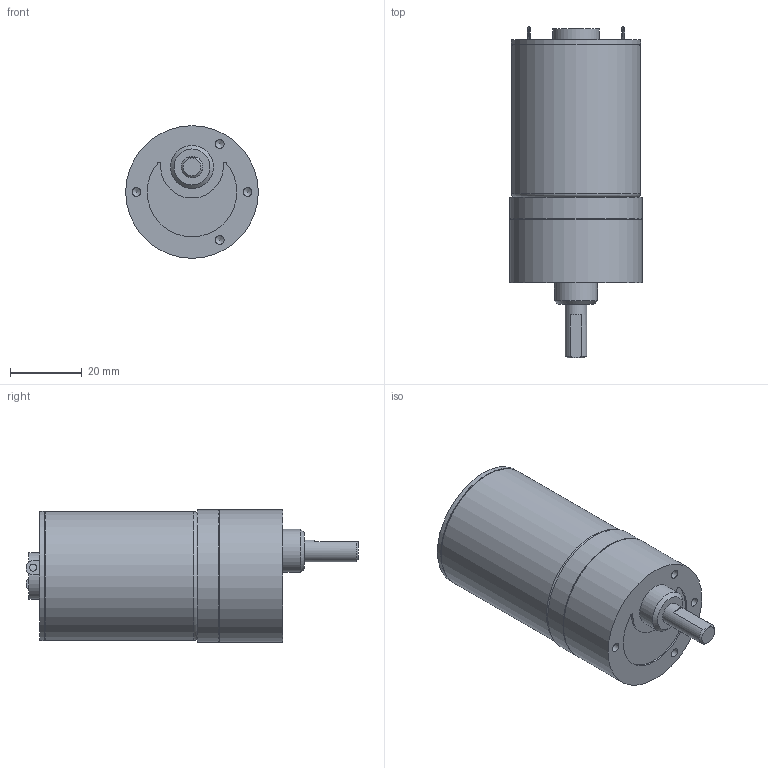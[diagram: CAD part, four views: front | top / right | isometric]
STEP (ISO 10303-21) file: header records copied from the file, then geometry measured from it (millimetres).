
FILE_DESCRIPTION((''),'2;1');
FILE_NAME('C:\Documents and Settings\SSEGAWA\デスクトップ\TP-3644D-HM-2.STP','2013-07-25T10:34:58',('SSEGAWA'),(''),'Autodesk Inventor 2010','Autodesk Inventor 2010','');
FILE_SCHEMA(('CONFIG_CONTROL_DESIGN'));
Length unit declared in the file: millimetre
Products named in the file (1): tp_3644dh_hm-2_Shrinkwrap_1
Bounding box: 37 x 92.6 x 37 mm (x, y, z)
Volume: 71542.8 mm3; surface area: 11064.5 mm2
Topology: 1 solids, 4 shells, 62 faces, 135 edges, 91 vertices
Faces by surface type: plane 26, cylinder 17, bspline 16, cone 2, torus 1
Full cylindrical faces by diameter (mm): 3 x1, 3.5 x1, 6 x1, 12 x1, 13 x1, 35.6 x1, 36 x2, 36.6 x1, 37 x2
Entity records: 1688 total; most frequent: CARTESIAN_POINT 494, DIRECTION 233, ORIENTED_EDGE 170, EDGE_LOOP 105, AXIS2_PLACEMENT_3D 103, EDGE_CURVE 85, VERTEX_POINT 70, STYLED_ITEM 63
